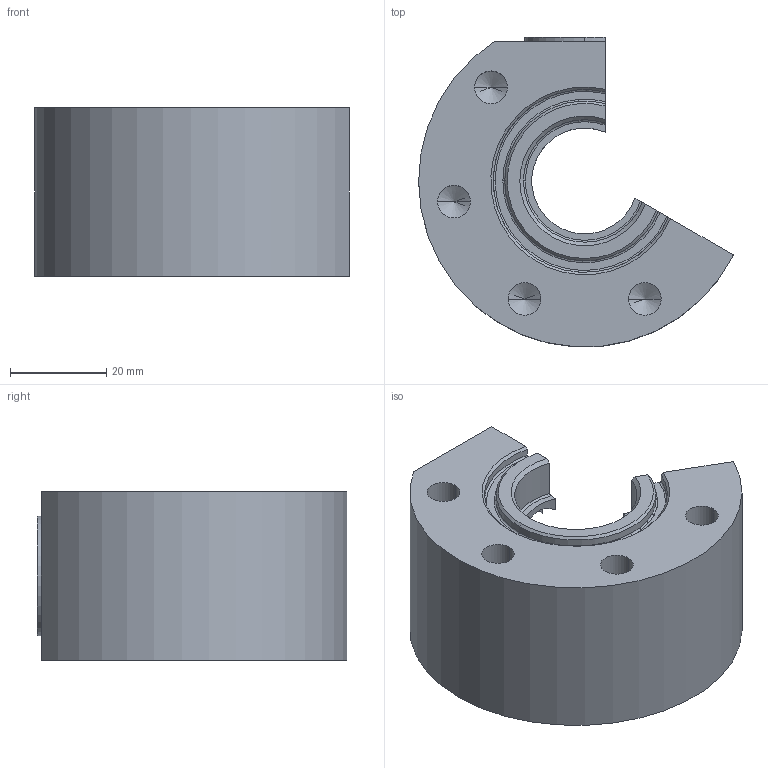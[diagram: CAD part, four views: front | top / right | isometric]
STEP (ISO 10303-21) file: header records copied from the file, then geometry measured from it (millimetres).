
FILE_DESCRIPTION (( 'STEP AP214' ), '1' );
FILE_NAME ('3D-28-05-197-CUT.STEP', '2025-03-24T09:26:39', ( '' ), ( '' ), 'SwSTEP 2.0', 'SolidWorks 2018', '' );
FILE_SCHEMA (( 'AUTOMOTIVE_DESIGN' ));
Length unit declared in the file: millimetre
Products named in the file (1): 3D-28-05-197-CUT
Bounding box: 65.38 x 64.33 x 35 mm (x, y, z)
Volume: 69418 mm3; surface area: 16974.6 mm2
Topology: 1 solids, 1 shells, 103 faces, 279 edges, 168 vertices
Faces by surface type: cylinder 43, cone 32, plane 16, torus 12
Entity records: 3482 total; most frequent: CARTESIAN_POINT 702, DIRECTION 554, ORIENTED_EDGE 518, EDGE_CURVE 259, AXIS2_PLACEMENT_3D 222, VERTEX_POINT 168, CIRCLE 118, EDGE_LOOP 113
